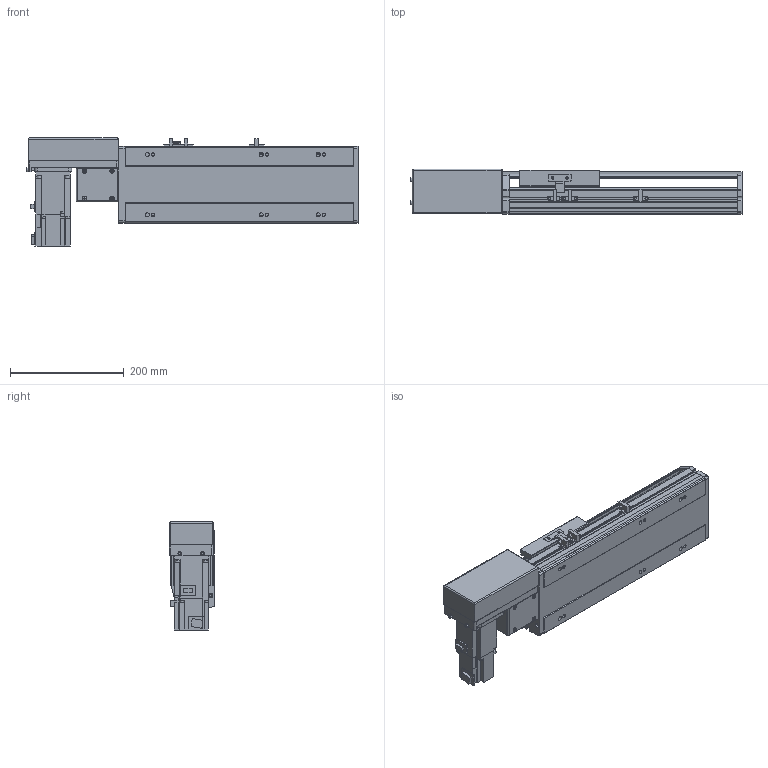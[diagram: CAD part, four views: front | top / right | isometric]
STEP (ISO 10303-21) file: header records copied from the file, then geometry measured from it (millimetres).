
FILE_DESCRIPTION(/* description */ ('STEP AP214'),/* implementation_level */ '2;1');
FILE_NAME(/* name */ 'PBS140-P40-S150-R-T40-C1-N(0)',/* time_stamp */ '2022-06-06T03:26:30+02:00',/* author */ ('License CC BY-ND 4.0'),/* organization */ ('CADENAS'),/* preprocessor_version */ 'ST-DEVELOPER v18.102',/* originating_system */ 'PARTsolutions',/* authorisation */ ' ');
FILE_SCHEMA (('AUTOMOTIVE_DESIGN {1 0 10303 214 3 1 1}'));
Length unit declared in the file: millimetre
Products named in the file (7): PBS140-P40-S150-R-T40-C1-N(0); PBS140_sensor; PBS140_plant; PBS140_sliser; T40-p1; PBS140T-R_motors; PBS140-S150()_body
Assembly tree (8 placements, depth 2):
  PBS140-P40-S150-R-T40-C1-N(0)
    PBS140_sensor  x3
    PBS140_plant
    PBS140_sliser
    T40-p1
    PBS140T-R_motors
    PBS140-S150()_body
Bounding box: 583 x 80.5 x 189.7 mm (x, y, z)
Volume: 2949434.3 mm3; surface area: 550381.8 mm2
Topology: 8 solids, 8 shells, 995 faces, 2636 edges, 1723 vertices
Faces by surface type: plane 662, cylinder 291, cone 32, sphere 8, torus 2
Full cylindrical faces by diameter (mm): 3.242 x4, 4 x2, 4.134 x4, 4.4 x8, 4.5 x2, 4.8 x4, 4.917 x14, 5.5 x7, 6 x2, 7 x8, 7.5 x8, 8 x12, 8.5 x4, 10.5 x6, 14 x1, 30 x2, 50 x2
Entity records: 28355 total; most frequent: CARTESIAN_POINT 5105, DIRECTION 4847, ORIENTED_EDGE 4612, EDGE_CURVE 2306, AXIS2_PLACEMENT_3D 1657, VERTEX_POINT 1581, LINE 1533, VECTOR 1533
